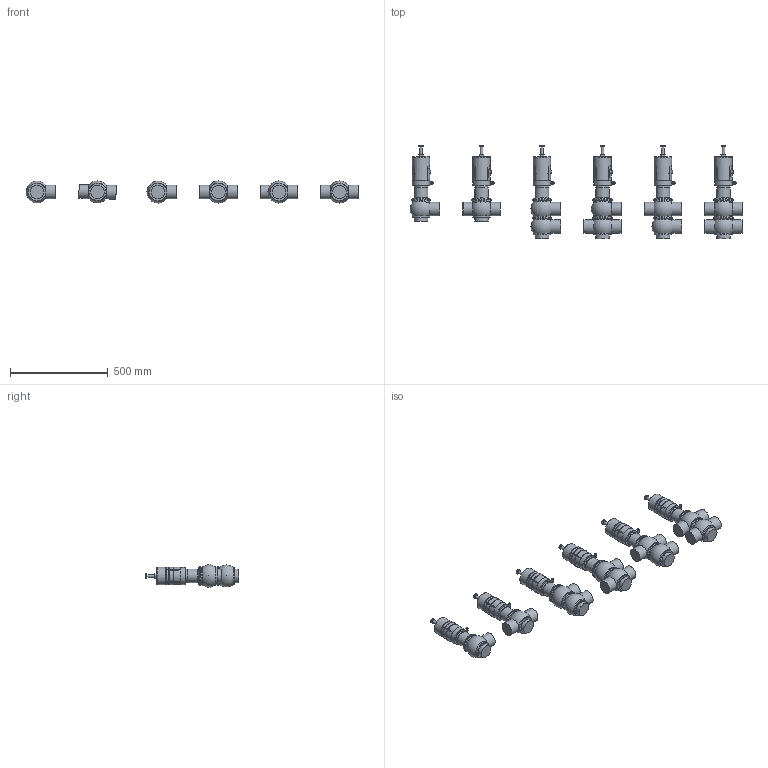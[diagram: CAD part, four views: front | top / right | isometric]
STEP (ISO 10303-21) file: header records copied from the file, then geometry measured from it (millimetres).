
FILE_DESCRIPTION((''),'2;1');
FILE_NAME('\\BV-SRV1\Ufficio tecnico\cad3d\PNEUMATICA\Ing1-1\pne bbzp e derivate\BBZS5\BBZS5-DN065-CIL83-SAL.iam.step','2009-10-19T10:18:07',(''),(''),'Autodesk Inventor 2010','Autodesk Inventor 2010','');
FILE_SCHEMA(('AUTOMOTIVE_DESIGN { 1 0 10303 214 1 1 1 1 }'));
Length unit declared in the file: millimetre
Products named in the file (7): BBZS5-DN065-CIL83-SAL; Assemblaggio-DN065; COR-INF-L-SAL-DN65; COR-INF-T-SAL-DN65; COR-SUP-L-SAL-DN65; COR-SUP-T-SAL-DN65; cil 83  tarabile
Assembly tree (22 placements, depth 2):
  BBZS5-DN065-CIL83-SAL
    Assemblaggio-DN065  x6
    COR-INF-L-SAL-DN65  x3
    COR-INF-T-SAL-DN65  x3
    COR-SUP-L-SAL-DN65  x2
    COR-SUP-T-SAL-DN65  x2
    cil 83  tarabile  x6
Bounding box: 1701.5 x 479.8 x 113.59 mm (x, y, z)
Volume: 17992438.8 mm3; surface area: 1236823.5 mm2
Topology: 22 solids, 52 shells, 1337 faces, 3188 edges, 1926 vertices
Faces by surface type: plane 491, cylinder 349, cone 266, bspline 96, sphere 87, torus 48
Full cylindrical faces by diameter (mm): 4.9 x6, 6 x12, 7 x6, 8.3 x6, 10 x6, 11 x6, 11.5 x6, 14 x18, 19.37 x6, 69 x6, 70 x21, 71 x6, 84.813 x18, 86 x12, 86.1 x6, 88.5 x6, 89.5 x6, 90 x26, 98 x20
Entity records: 7702 total; most frequent: CARTESIAN_POINT 2110, DIRECTION 1108, ORIENTED_EDGE 952, AXIS2_PLACEMENT_3D 476, EDGE_CURVE 476, EDGE_LOOP 351, VERTEX_POINT 327, FACE_OUTER_BOUND 253
